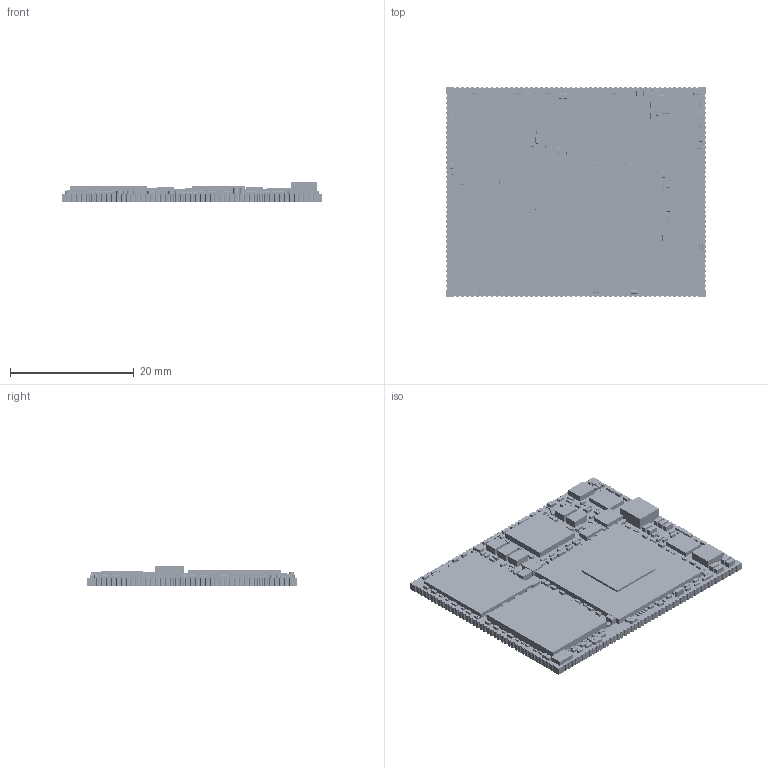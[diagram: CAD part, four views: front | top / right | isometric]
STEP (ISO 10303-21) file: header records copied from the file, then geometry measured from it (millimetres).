
FILE_DESCRIPTION (( 'STEP AP214' ), '1' );
FILE_NAME ('MCM-IMX95 REV 1.0_asm.STEP', '2025-09-09T14:17:32', ( '' ), ( '' ), 'SwSTEP 2.0', 'SolidWorks 2021', '' );
FILE_SCHEMA (( 'AUTOMOTIVE_DESIGN' ));
Length unit declared in the file: millimetre
Products named in the file (48): 151B10600S_RC0402_SAMSUNG; 151B10500S-Samsung_-_CL05A104KO5NNNC; 161C10021S-RC0402FR-0710K0; 123V1R201S_QFN3_5x4_5-24_123V1R201S; 106C20570S_MO-252UAAD_106C20570S; 123M0R703S_QFN8x8-56-5x5_5_123M0R703S; 151B22600S_RC0402; 161B00001S_RC0201_161B00001S; 141B32301I_XTAL3_2x1_5_141B32301I; 139A10260S_LED-0603; 161C24003S_RC0402_161C24003S; 151B105B0S_RC0201_151B105B0S; 111S31000S_MO-229VCED-21; 147D22101S_FB0603_147D22101S; 111L53200S_BGA-315-12.4x15mm_111L53200S; 131D31540S_SOT-563-6_131D31540S; 161C10011S-RC-02K1001FT; 141B24605I_OSC3225_141B24605I; 161C20001S_RC0402_161C20001S; 151B10400S-Samsung_-_CL05A104KO5NNNC; 111M33602S_MO-276BA_111M33602S; 161C22015S_RC0402_161C22015S; 151B104B0S_RC0201_Walsin; 161C12001S_RC0402_161C12001S; 106C20320S_SC70_106C20320S; 115A01154S_BGA-716-0.7mm-body19x19_115A01154S; MCM-IMX95 REV 1.0_asm; 151B475B0S_C0201_151B475B0S; 161C51111S_RC0402_161C51111S; 151D15000S_RC0402_151D15000S; 147AR1000S_IND4_3x4_7SM_147AR1000S; 15502R600S_RC0402_15502R600S; 151B47500S_RC0402_151B47500S; 106C20000S_SC_70-MAA05A_106C20000S; 151A22500S_RC0402_151A22500S; 123V1R202S_QFN3_5x4_5-24_123V1R202S; 161C10031S_RC0402; 147AR1001S_IND3_2x3_5SM_147AR1001S; 151A47610S_RC0603_151A47610S; 161C00005S_RC0402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
Assembly tree (248 placements, depth 2):
  MCM-IMX95 REV 1.0_asm
    MCM-IMX95 REV 1.0_board
    106C20000S_SC_70-MAA05A_106C20000S
    106C20320S_SC70_106C20320S
    106C20570S_MO-252UAAD_106C20570S
    111L53200S_BGA-315-12.4x15mm_111L53200S
    111M33602S_MO-276BA_111M33602S
    111S31000S_MO-229VCED-21
    115A01154S_BGA-716-0.7mm-body19x19_115A01154S
    116B00640S_DFN3.2x2.5-10_116B00640S
    123M0R703S_QFN8x8-56-5x5_5_123M0R703S
    123V1R201S_QFN3_5x4_5-24_123V1R201S
    123V1R202S_QFN3_5x4_5-24_123V1R202S
    131D31540S_SOT-563-6_131D31540S
    139A10260S_LED-0603
    141B24605I_OSC3225_141B24605I
    141B32301I_XTAL3_2x1_5_141B32301I
    147AR1000S_IND4_3x4_7SM_147AR1000S
    147AR1001S_IND3_2x3_5SM_147AR1001S
    147AR4700S_Ind2_5x2x1_2_147AR4700S  x3
    147AR4702S_Ind2_5x2x1_2_147AR4702S  x2
    147D22100S_FB0402_147D22100S
    147D22101S_FB0603_147D22101S
    151A22500S_RC0402_151A22500S  x4
    151A47610S_RC0603_151A47610S  x9
    151B10400S-Samsung_-_CL05A104KO5NNNC  x5
    151B104B0S_RC0201_Walsin  x9
    151B10500S-Samsung_-_CL05A104KO5NNNC  x6
    151B105B0S_RC0201_151B105B0S  x40
    151B10600S_RC0402_SAMSUNG  x35
    151B22600S_RC0402  x16
    151B47500S_RC0402_151B47500S  x8
    151B475B0S_C0201_151B475B0S  x2
    151C224B0S_RC0201_151C224B0S  x7
    151D15000S_RC0402_151D15000S  x2
    15502R600S_RC0402_15502R600S  x2
    161B00001S_RC0201_161B00001S  x4
    161C00005S_RC0402  x14
    161C10011S-RC-02K1001FT  x7
    161C10021S-RC0402FR-0710K0  x24
    161C10031S_RC0402  x11
    161C12001S_RC0402_161C12001S
    161C15001S_RC0402_161C15001S
    161C20001S_RC0402_161C20001S  x5
    161C22015S_RC0402_161C22015S  x5
    161C24003S_RC0402_161C24003S
    161C30021S_RC0402_161C30021S
    161C51111S_RC0402_161C51111S  x4
Bounding box: 42 x 34 x 3.2 mm (x, y, z)
Volume: 2737.4 mm3; surface area: 6368.8 mm2
Topology: 830 solids, 830 shells, 22646 faces, 61829 edges, 37304 vertices
Faces by surface type: plane 13336, cylinder 5236, bspline 4074
Entity records: 180464 total; most frequent: CARTESIAN_POINT 30218, ORIENTED_EDGE 23042, DIRECTION 21190, EDGE_CURVE 11521, LINE 9840, VECTOR 9840, VERTEX_POINT 7586, AXIS2_PLACEMENT_3D 5675
